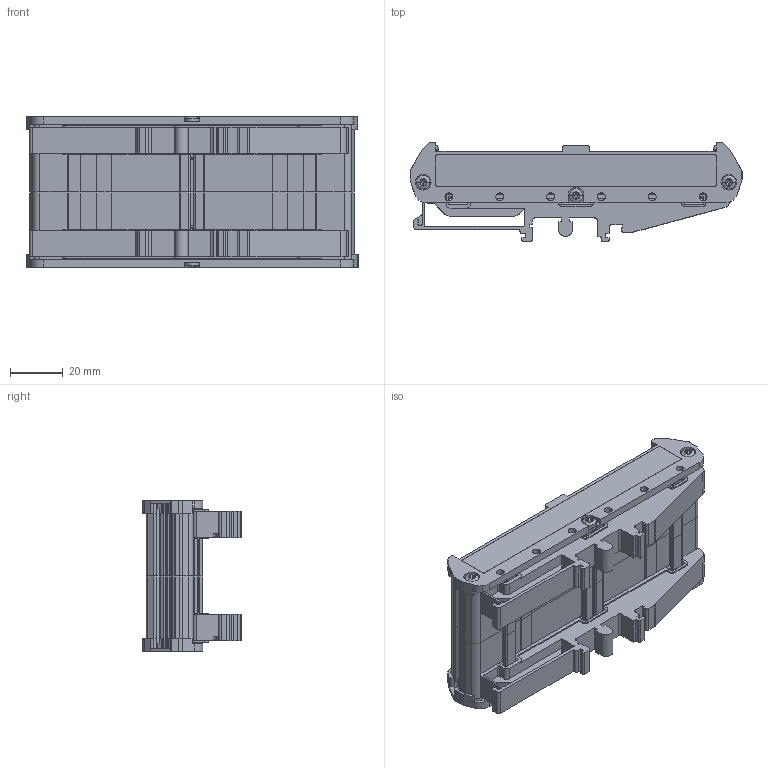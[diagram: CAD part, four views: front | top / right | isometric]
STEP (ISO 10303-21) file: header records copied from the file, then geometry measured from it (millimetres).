
FILE_DESCRIPTION(('FreeCAD Model'),'2;1');
FILE_NAME('C:/Users/Electromen/Desktop/EM-KP107-54.step', '2020-03-26T13:14:01',('Author'),(''), 'Open CASCADE STEP processor 7.2','FreeCAD','Unknown');
FILE_SCHEMA(('AUTOMOTIVE_DESIGN { 1 0 10303 214 1 1 1 1 }'));
Length unit declared in the file: millimetre
Products named in the file (11): Fusion; UM108-SE_H.Select__00276903; Schr.Lins._3x14-Z_01151118.3; Schr.Lins._3x14-Z_01151118.004; Schr.Lins._3x14-Z_01151118.005; UM108-SE_H.Select__00276904; Schr.Lins._3x14-Z_01151118.006; Schr.Lins._3x14-Z_01151118.007; Schr.Lins._3x14-Z_01151118.008; um_108-fe003; um_108-fe004
Bounding box: 125.41 x 37.33 x 57 mm (x, y, z)
Volume: 50747.2 mm3; surface area: 51062.7 mm2
Topology: 11 solids, 11 shells, 2026 faces, 5698 edges, 3718 vertices
Faces by surface type: plane 1122, cylinder 814, cone 54, sphere 12, torus 12, bspline 12
Entity records: 250137 total; most frequent: CARTESIAN_POINT 134682, DIRECTION 20540, LINE 12213, VECTOR 12213, ORIENTED_EDGE 11372, PCURVE 11372, DEFINITIONAL_REPRESENTATION 11372, EDGE_CURVE 5686
